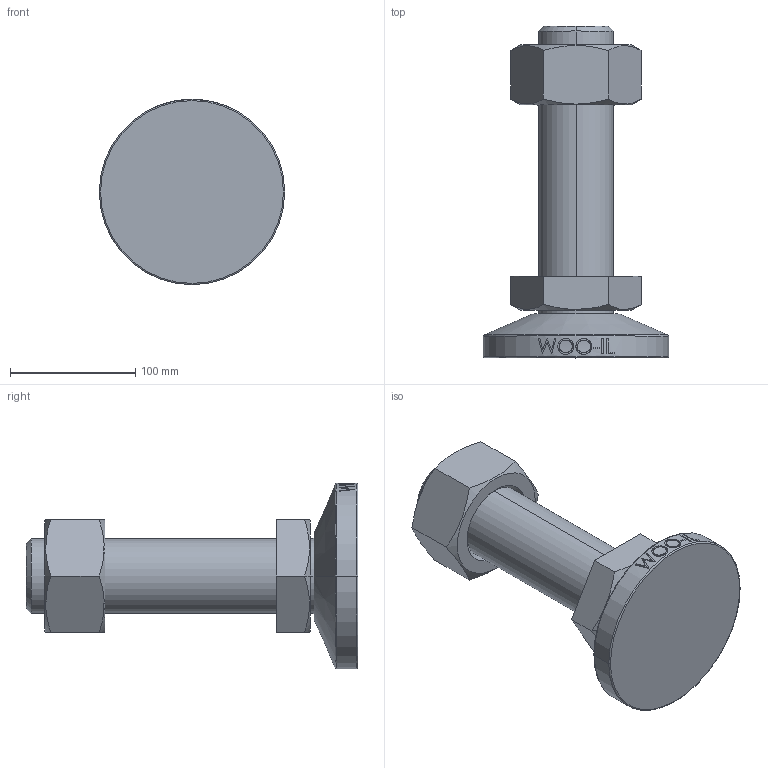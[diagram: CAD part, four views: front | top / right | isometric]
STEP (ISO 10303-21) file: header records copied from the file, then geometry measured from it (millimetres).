
FILE_DESCRIPTION (( 'STEP AP214' ), '1' );
FILE_NAME ('WTr60-148-Tr60-200.step', '2021-02-02T06:08:25', ( '' ), ( '' ), 'SwSTEP 2.0', 'SolidWorks 2019', '' );
FILE_SCHEMA (( 'AUTOMOTIVE_DESIGN' ));
Length unit declared in the file: millimetre
Products named in the file (2): WTr60-148-Tr60-200
Bounding box: 148 x 265 x 148 mm (x, y, z)
Volume: 1432252.6 mm3; surface area: 134365.2 mm2
Topology: 3 solids, 3 shells, 97 faces, 229 edges, 148 vertices
Faces by surface type: plane 47, cylinder 16, bspline 16, cone 14, torus 4
Entity records: 4562 total; most frequent: CARTESIAN_POINT 2398, ORIENTED_EDGE 458, DIRECTION 387, EDGE_CURVE 229, VERTEX_POINT 148, AXIS2_PLACEMENT_3D 145, EDGE_LOOP 109, VECTOR 97
